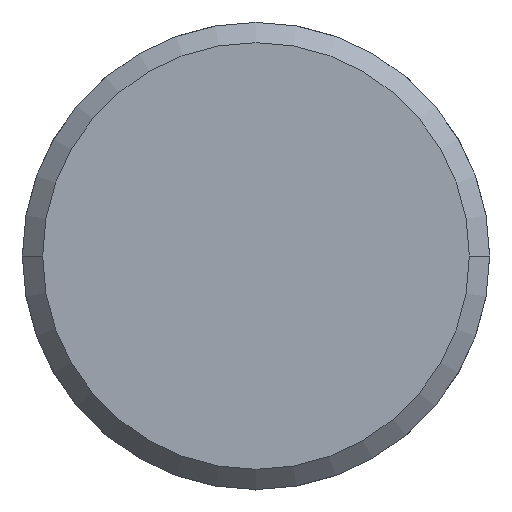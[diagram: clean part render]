
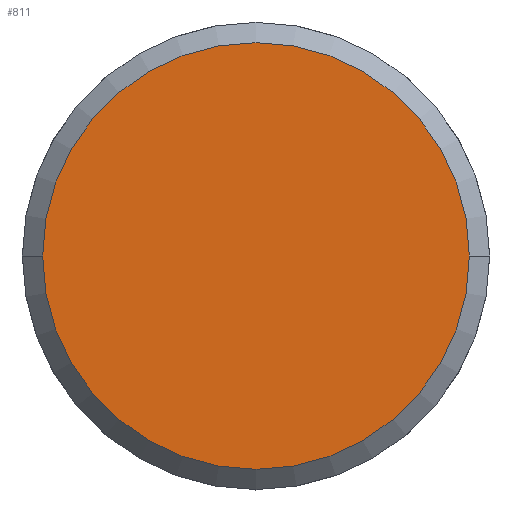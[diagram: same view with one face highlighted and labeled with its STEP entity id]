
A CAD part, front view. The second image highlights one B-rep face of the part: STEP entity #811.
In plain terms, the highlighted planar face has unit normal (0, -1, 0).
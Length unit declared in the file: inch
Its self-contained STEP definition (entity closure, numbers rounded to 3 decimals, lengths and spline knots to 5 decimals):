
#1 = CARTESIAN_POINT ( 'NONE',  ( -2.76231, -0.23132, 0. ) ) ;
#240 = DIRECTION ( 'NONE',  ( -1., 0., 0. ) ) ;
#295 = DIRECTION ( 'NONE',  ( -1., 0., 0. ) ) ;
#297 = CARTESIAN_POINT ( 'NONE',  ( -2.76231, -0.23132, 0. ) ) ;
#299 = DIRECTION ( 'NONE',  ( 0., -1., 0. ) ) ;
#332 = CARTESIAN_POINT ( 'NONE',  ( -3.42031, -0.23132, 0. ) ) ;
#387 = CARTESIAN_POINT ( 'NONE',  ( -2.10431, -0.23132, 0. ) ) ;
#397 = DIRECTION ( 'NONE',  ( 0., 0., -1. ) ) ;
#398 = DIRECTION ( 'NONE',  ( 0., -1., 0. ) ) ;
#399 = CARTESIAN_POINT ( 'NONE',  ( 0., -0.23132, 0. ) ) ;
#408 = PLANE ( 'NONE',  #1695 ) ;
#556 = EDGE_CURVE ( 'NONE', #1035, #828, #1212, .T. ) ;
#747 = DIRECTION ( 'NONE',  ( 0., -1., 0. ) ) ;
#811 = ADVANCED_FACE ( 'NONE', ( #1780 ), #408, .T. ) ;
#828 = VERTEX_POINT ( 'NONE', #387 ) ;
#1021 = EDGE_LOOP ( 'NONE', ( #1208, #1209 ) ) ;
#1035 = VERTEX_POINT ( 'NONE', #332 ) ;
#1208 = ORIENTED_EDGE ( 'NONE', *, *, #556, .T. ) ;
#1209 = ORIENTED_EDGE ( 'NONE', *, *, #1259, .T. ) ;
#1212 = CIRCLE ( 'NONE', #1370, 0.658 ) ;
#1259 = EDGE_CURVE ( 'NONE', #828, #1035, #1792, .T. ) ;
#1370 = AXIS2_PLACEMENT_3D ( 'NONE', #297, #299, #295 ) ;
#1694 = AXIS2_PLACEMENT_3D ( 'NONE', #1, #747, #240 ) ;
#1695 = AXIS2_PLACEMENT_3D ( 'NONE', #399, #398, #397 ) ;
#1780 = FACE_OUTER_BOUND ( 'NONE', #1021, .T. ) ;
#1792 = CIRCLE ( 'NONE', #1694, 0.658 ) ;
